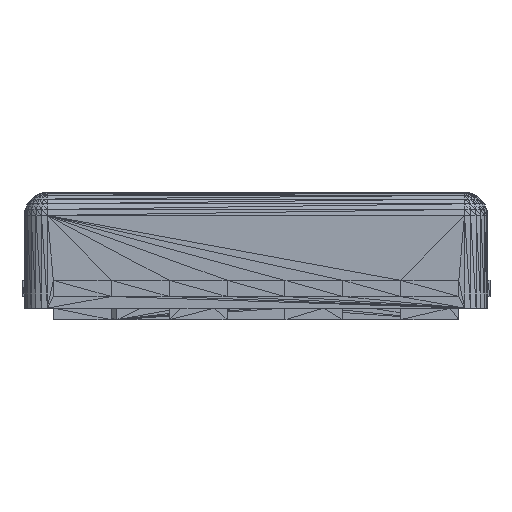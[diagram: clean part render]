
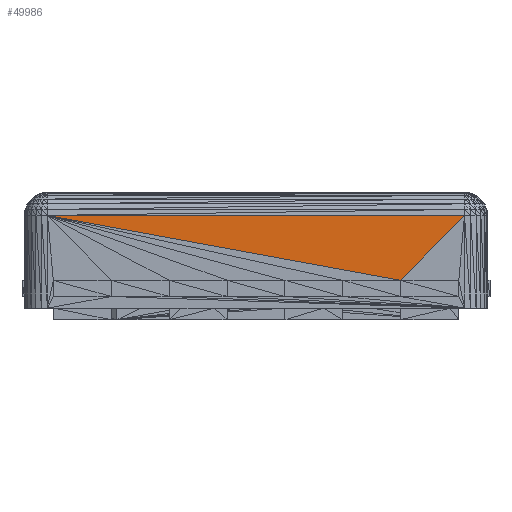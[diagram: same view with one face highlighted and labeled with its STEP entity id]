
A CAD part, front view. The second image highlights one B-rep face of the part: STEP entity #49986.
In plain terms, the highlighted planar face has unit normal (0, -1, 0).
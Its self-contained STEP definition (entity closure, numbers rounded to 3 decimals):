
#18914 = VERTEX_POINT('',#18915);
#18915 = CARTESIAN_POINT('',(-0.908,-1.528,0.45));
#49986 = ADVANCED_FACE('',(#49987),#49999,.T.);
#49987 = FACE_BOUND('',#49988,.T.);
#49988 = EDGE_LOOP('',(#49989,#50021,#50048));
#49989 = ORIENTED_EDGE('',*,*,#49990,.T.);
#49990 = EDGE_CURVE('',#18914,#49991,#49993,.T.);
#49991 = VERTEX_POINT('',#49992);
#49992 = CARTESIAN_POINT('',(0.617,-1.528,0.17));
#49993 = SURFACE_CURVE('',#49994,(#49998,#50010),.PCURVE_S1.);
#49994 = LINE('',#49995,#49996);
#49995 = CARTESIAN_POINT('',(-0.908,-1.528,0.45));
#49996 = VECTOR('',#49997,1.);
#49997 = DIRECTION('',(0.984,0.,-0.181));
#49998 = PCURVE('',#49999,#50004);
#49999 = PLANE('',#50000);
#50000 = AXIS2_PLACEMENT_3D('',#50001,#50002,#50003);
#50001 = CARTESIAN_POINT('',(0.015,-1.528,0.377
    ));
#50002 = DIRECTION('',(-0.,-1.,-0.));
#50003 = DIRECTION('',(0.,0.,-1.));
#50004 = DEFINITIONAL_REPRESENTATION('',(#50005),#50009);
#50005 = LINE('',#50006,#50007);
#50006 = CARTESIAN_POINT('',(-0.073,-0.923));
#50007 = VECTOR('',#50008,1.);
#50008 = DIRECTION('',(0.181,0.984));
#50009 = ( GEOMETRIC_REPRESENTATION_CONTEXT(2) 
PARAMETRIC_REPRESENTATION_CONTEXT() REPRESENTATION_CONTEXT('2D SPACE',''
  ) );
#50010 = PCURVE('',#50011,#50016);
#50011 = PLANE('',#50012);
#50012 = AXIS2_PLACEMENT_3D('',#50013,#50014,#50015);
#50013 = CARTESIAN_POINT('',(-0.147,-1.528,0.299));
#50014 = DIRECTION('',(-0.,-1.,-0.));
#50015 = DIRECTION('',(0.,0.,-1.));
#50016 = DEFINITIONAL_REPRESENTATION('',(#50017),#50020);
#50017 = B_SPLINE_CURVE_WITH_KNOTS('',1,(#50018,#50019),.UNSPECIFIED.,
  .F.,.F.,(2,2),(0.,1.551),.PIECEWISE_BEZIER_KNOTS.);
#50018 = CARTESIAN_POINT('',(-0.151,-0.761));
#50019 = CARTESIAN_POINT('',(0.129,0.764));
#50020 = ( GEOMETRIC_REPRESENTATION_CONTEXT(2) 
PARAMETRIC_REPRESENTATION_CONTEXT() REPRESENTATION_CONTEXT('2D SPACE',''
  ) );
#50021 = ORIENTED_EDGE('',*,*,#50022,.T.);
#50022 = EDGE_CURVE('',#49991,#50023,#50025,.T.);
#50023 = VERTEX_POINT('',#50024);
#50024 = CARTESIAN_POINT('',(0.892,-1.528,0.45));
#50025 = SURFACE_CURVE('',#50026,(#50030,#50037),.PCURVE_S1.);
#50026 = LINE('',#50027,#50028);
#50027 = CARTESIAN_POINT('',(0.617,-1.528,0.17));
#50028 = VECTOR('',#50029,1.);
#50029 = DIRECTION('',(0.701,0.,0.714));
#50030 = PCURVE('',#49999,#50031);
#50031 = DEFINITIONAL_REPRESENTATION('',(#50032),#50036);
#50032 = LINE('',#50033,#50034);
#50033 = CARTESIAN_POINT('',(0.207,0.602));
#50034 = VECTOR('',#50035,1.);
#50035 = DIRECTION('',(-0.714,0.701));
#50036 = ( GEOMETRIC_REPRESENTATION_CONTEXT(2) 
PARAMETRIC_REPRESENTATION_CONTEXT() REPRESENTATION_CONTEXT('2D SPACE',''
  ) );
#50037 = PCURVE('',#50038,#50043);
#50038 = PLANE('',#50039);
#50039 = AXIS2_PLACEMENT_3D('',#50040,#50041,#50042);
#50040 = CARTESIAN_POINT('',(0.789,-1.528,0.272));
#50041 = DIRECTION('',(-0.,-1.,-0.));
#50042 = DIRECTION('',(0.,0.,-1.));
#50043 = DEFINITIONAL_REPRESENTATION('',(#50044),#50047);
#50044 = B_SPLINE_CURVE_WITH_KNOTS('',1,(#50045,#50046),.UNSPECIFIED.,
  .F.,.F.,(2,2),(0.,0.393),.PIECEWISE_BEZIER_KNOTS.);
#50045 = CARTESIAN_POINT('',(0.102,-0.172));
#50046 = CARTESIAN_POINT('',(-0.178,0.103));
#50047 = ( GEOMETRIC_REPRESENTATION_CONTEXT(2) 
PARAMETRIC_REPRESENTATION_CONTEXT() REPRESENTATION_CONTEXT('2D SPACE',''
  ) );
#50048 = ORIENTED_EDGE('',*,*,#50049,.T.);
#50049 = EDGE_CURVE('',#50023,#18914,#50050,.T.);
#50050 = SURFACE_CURVE('',#50051,(#50055),.PCURVE_S1.);
#50051 = LINE('',#50052,#50053);
#50052 = CARTESIAN_POINT('',(0.892,-1.528,0.45));
#50053 = VECTOR('',#50054,1.);
#50054 = DIRECTION('',(-1.,0.,0.));
#50055 = PCURVE('',#49999,#50056);
#50056 = DEFINITIONAL_REPRESENTATION('',(#50057),#50061);
#50057 = LINE('',#50058,#50059);
#50058 = CARTESIAN_POINT('',(-0.073,0.877));
#50059 = VECTOR('',#50060,1.);
#50060 = DIRECTION('',(0.,-1.));
#50061 = ( GEOMETRIC_REPRESENTATION_CONTEXT(2) 
PARAMETRIC_REPRESENTATION_CONTEXT() REPRESENTATION_CONTEXT('2D SPACE',''
  ) );
